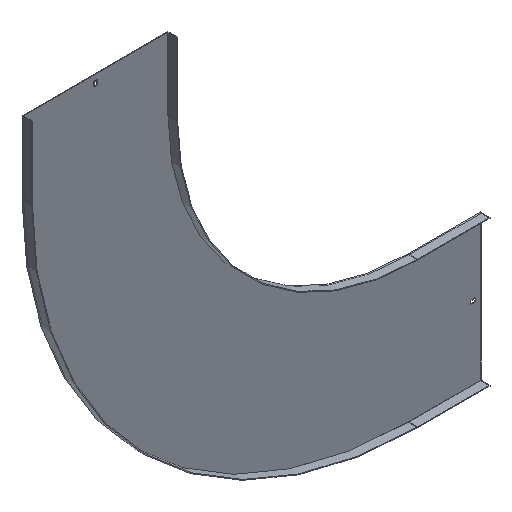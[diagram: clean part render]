
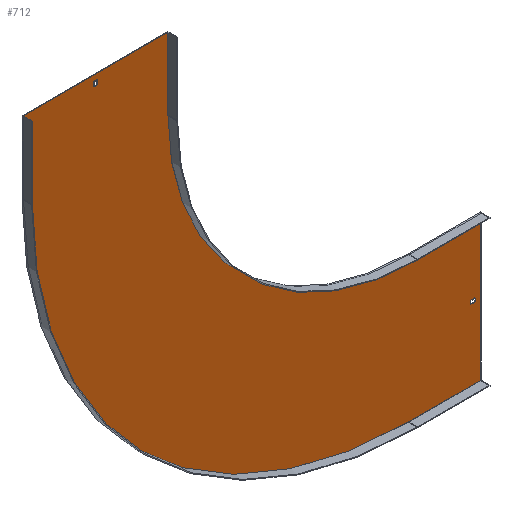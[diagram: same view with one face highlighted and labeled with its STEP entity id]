
A CAD part, isometric view. The second image highlights one B-rep face of the part: STEP entity #712.
In plain terms, the highlighted planar face has unit normal (0, -1, 0).
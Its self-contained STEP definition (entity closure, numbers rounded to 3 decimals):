
#18 = DIRECTION ( 'NONE',  ( 0., 0., -1. ) ) ;
#26 = DIRECTION ( 'NONE',  ( 0., 0., -1. ) ) ;
#27 = ORIENTED_EDGE ( 'NONE', *, *, #55, .T. ) ;
#32 = VERTEX_POINT ( 'NONE', #49 ) ;
#42 = CARTESIAN_POINT ( 'NONE',  ( -646.75, -1.5, 138. ) ) ;
#49 = CARTESIAN_POINT ( 'NONE',  ( -500., -1.5, 150. ) ) ;
#51 = VECTOR ( 'NONE', #26, 1000. ) ;
#55 = EDGE_CURVE ( 'NONE', #222, #390, #96, .T. ) ;
#67 = DIRECTION ( 'NONE',  ( 0., -1., 0. ) ) ;
#68 = DIRECTION ( 'NONE',  ( 1., 0., 0. ) ) ;
#72 = AXIS2_PLACEMENT_3D ( 'NONE', #525, #67, #726 ) ;
#83 = ORIENTED_EDGE ( 'NONE', *, *, #433, .F. ) ;
#90 = VECTOR ( 'NONE', #543, 1000. ) ;
#93 = CARTESIAN_POINT ( 'NONE',  ( -646.75, -1.5, 129. ) ) ;
#96 = LINE ( 'NONE', #336, #51 ) ;
#101 = CARTESIAN_POINT ( 'NONE',  ( 150., -1.5, -498.5 ) ) ;
#109 = VECTOR ( 'NONE', #412, 1000. ) ;
#115 = EDGE_CURVE ( 'NONE', #777, #827, #808, .T. ) ;
#116 = CARTESIAN_POINT ( 'NONE',  ( -801.5, -1.5, 150. ) ) ;
#117 = VERTEX_POINT ( 'NONE', #760 ) ;
#122 = FACE_OUTER_BOUND ( 'NONE', #545, .T. ) ;
#132 = AXIS2_PLACEMENT_3D ( 'NONE', #295, #490, #18 ) ;
#134 = VERTEX_POINT ( 'NONE', #413 ) ;
#137 = VERTEX_POINT ( 'NONE', #842 ) ;
#152 = LINE ( 'NONE', #474, #210 ) ;
#158 = EDGE_LOOP ( 'NONE', ( #467, #189, #83, #616 ) ) ;
#164 = ORIENTED_EDGE ( 'NONE', *, *, #551, .F. ) ;
#174 = DIRECTION ( 'NONE',  ( 0., -1., 0. ) ) ;
#178 = ORIENTED_EDGE ( 'NONE', *, *, #341, .T. ) ;
#180 = CARTESIAN_POINT ( 'NONE',  ( 0., -1.5, -500. ) ) ;
#189 = ORIENTED_EDGE ( 'NONE', *, *, #574, .F. ) ;
#192 = EDGE_CURVE ( 'NONE', #799, #134, #709, .T. ) ;
#210 = VECTOR ( 'NONE', #614, 1000. ) ;
#212 = FACE_BOUND ( 'NONE', #546, .T. ) ;
#214 = VERTEX_POINT ( 'NONE', #261 ) ;
#216 = CARTESIAN_POINT ( 'NONE',  ( 150., -1.5, -500. ) ) ;
#220 = EDGE_CURVE ( 'NONE', #548, #32, #444, .T. ) ;
#221 = DIRECTION ( 'NONE',  ( 0., 0., -1. ) ) ;
#222 = VERTEX_POINT ( 'NONE', #42 ) ;
#225 = CIRCLE ( 'NONE', #132, 800. ) ;
#240 = CARTESIAN_POINT ( 'NONE',  ( 0., -1.5, -800. ) ) ;
#243 = CARTESIAN_POINT ( 'NONE',  ( 138., -1.5, -646.75 ) ) ;
#247 = EDGE_CURVE ( 'NONE', #710, #777, #311, .T. ) ;
#254 = VERTEX_POINT ( 'NONE', #636 ) ;
#257 = CARTESIAN_POINT ( 'NONE',  ( 0., -1.5, -500. ) ) ;
#261 = CARTESIAN_POINT ( 'NONE',  ( -800., -1.5, 0. ) ) ;
#279 = ORIENTED_EDGE ( 'NONE', *, *, #443, .F. ) ;
#284 = ORIENTED_EDGE ( 'NONE', *, *, #247, .F. ) ;
#290 = LINE ( 'NONE', #823, #109 ) ;
#294 = VERTEX_POINT ( 'NONE', #829 ) ;
#295 = CARTESIAN_POINT ( 'NONE',  ( 0., -1.5, 0. ) ) ;
#300 = EDGE_CURVE ( 'NONE', #410, #117, #695, .T. ) ;
#301 = LINE ( 'NONE', #469, #735 ) ;
#311 = LINE ( 'NONE', #180, #565 ) ;
#322 = LINE ( 'NONE', #327, #464 ) ;
#327 = CARTESIAN_POINT ( 'NONE',  ( -800., -1.5, 0. ) ) ;
#336 = CARTESIAN_POINT ( 'NONE',  ( -646.75, -1.5, 0. ) ) ;
#341 = EDGE_CURVE ( 'NONE', #117, #222, #152, .T. ) ;
#346 = ORIENTED_EDGE ( 'NONE', *, *, #220, .F. ) ;
#373 = DIRECTION ( 'NONE',  ( 1., 0., 0. ) ) ;
#390 = VERTEX_POINT ( 'NONE', #93 ) ;
#392 = EDGE_CURVE ( 'NONE', #134, #294, #290, .T. ) ;
#393 = VECTOR ( 'NONE', #373, 1000. ) ;
#398 = DIRECTION ( 'NONE',  ( 0., 0., 1. ) ) ;
#402 = DIRECTION ( 'NONE',  ( -1., 0., 0. ) ) ;
#405 = CIRCLE ( 'NONE', #579, 500. ) ;
#410 = VERTEX_POINT ( 'NONE', #491 ) ;
#412 = DIRECTION ( 'NONE',  ( 0., 0., -1. ) ) ;
#413 = CARTESIAN_POINT ( 'NONE',  ( 129., -1.5, -646.75 ) ) ;
#422 = CARTESIAN_POINT ( 'NONE',  ( 150., -1.5, -800. ) ) ;
#433 = EDGE_CURVE ( 'NONE', #294, #137, #301, .T. ) ;
#435 = CARTESIAN_POINT ( 'NONE',  ( 150., -1.5, -800. ) ) ;
#443 = EDGE_CURVE ( 'NONE', #214, #548, #322, .T. ) ;
#444 = LINE ( 'NONE', #116, #393 ) ;
#456 = EDGE_CURVE ( 'NONE', #390, #410, #532, .T. ) ;
#464 = VECTOR ( 'NONE', #398, 1000. ) ;
#467 = ORIENTED_EDGE ( 'NONE', *, *, #192, .F. ) ;
#469 = CARTESIAN_POINT ( 'NONE',  ( 0., -1.5, -653.25 ) ) ;
#474 = CARTESIAN_POINT ( 'NONE',  ( 0., -1.5, 138. ) ) ;
#483 = LINE ( 'NONE', #745, #661 ) ;
#490 = DIRECTION ( 'NONE',  ( 0., 1., 0. ) ) ;
#491 = CARTESIAN_POINT ( 'NONE',  ( -653.25, -1.5, 129. ) ) ;
#504 = EDGE_CURVE ( 'NONE', #809, #214, #225, .T. ) ;
#510 = ORIENTED_EDGE ( 'NONE', *, *, #115, .F. ) ;
#512 = DIRECTION ( 'NONE',  ( 1., 0., 0. ) ) ;
#517 = FACE_BOUND ( 'NONE', #158, .T. ) ;
#520 = VECTOR ( 'NONE', #402, 1000. ) ;
#525 = CARTESIAN_POINT ( 'NONE',  ( 0., -1.5, 0. ) ) ;
#531 = VECTOR ( 'NONE', #716, 1000. ) ;
#532 = LINE ( 'NONE', #670, #520 ) ;
#533 = EDGE_CURVE ( 'NONE', #827, #809, #746, .T. ) ;
#539 = DIRECTION ( 'NONE',  ( 0., 0., -1. ) ) ;
#540 = ORIENTED_EDGE ( 'NONE', *, *, #300, .T. ) ;
#541 = LINE ( 'NONE', #806, #651 ) ;
#543 = DIRECTION ( 'NONE',  ( 0., 0., 1. ) ) ;
#545 = EDGE_LOOP ( 'NONE', ( #346, #279, #650, #608, #510, #284, #164, #832 ) ) ;
#546 = EDGE_LOOP ( 'NONE', ( #178, #27, #785, #540 ) ) ;
#548 = VERTEX_POINT ( 'NONE', #629 ) ;
#551 = EDGE_CURVE ( 'NONE', #254, #710, #405, .T. ) ;
#565 = VECTOR ( 'NONE', #512, 1000. ) ;
#574 = EDGE_CURVE ( 'NONE', #137, #799, #541, .T. ) ;
#579 = AXIS2_PLACEMENT_3D ( 'NONE', #764, #174, #699 ) ;
#599 = VECTOR ( 'NONE', #221, 1000. ) ;
#608 = ORIENTED_EDGE ( 'NONE', *, *, #533, .F. ) ;
#614 = DIRECTION ( 'NONE',  ( 1., 0., 0. ) ) ;
#616 = ORIENTED_EDGE ( 'NONE', *, *, #392, .F. ) ;
#621 = VECTOR ( 'NONE', #754, 1000. ) ;
#629 = CARTESIAN_POINT ( 'NONE',  ( -800., -1.5, 150. ) ) ;
#636 = CARTESIAN_POINT ( 'NONE',  ( -500., -1.5, 0. ) ) ;
#650 = ORIENTED_EDGE ( 'NONE', *, *, #504, .F. ) ;
#651 = VECTOR ( 'NONE', #653, 1000. ) ;
#653 = DIRECTION ( 'NONE',  ( 0., 0., 1. ) ) ;
#661 = VECTOR ( 'NONE', #539, 1000. ) ;
#670 = CARTESIAN_POINT ( 'NONE',  ( 0., -1.5, 129. ) ) ;
#695 = LINE ( 'NONE', #736, #90 ) ;
#697 = EDGE_CURVE ( 'NONE', #32, #254, #483, .T. ) ;
#699 = DIRECTION ( 'NONE',  ( 0., 0., -1. ) ) ;
#709 = LINE ( 'NONE', #836, #531 ) ;
#710 = VERTEX_POINT ( 'NONE', #257 ) ;
#712 = ADVANCED_FACE ( 'NONE', ( #517, #122, #212 ), #862, .T. ) ;
#716 = DIRECTION ( 'NONE',  ( -1., 0., 0. ) ) ;
#726 = DIRECTION ( 'NONE',  ( 0., 0., -1. ) ) ;
#735 = VECTOR ( 'NONE', #68, 1000. ) ;
#736 = CARTESIAN_POINT ( 'NONE',  ( -653.25, -1.5, 0. ) ) ;
#745 = CARTESIAN_POINT ( 'NONE',  ( -500., -1.5, 150. ) ) ;
#746 = LINE ( 'NONE', #435, #621 ) ;
#754 = DIRECTION ( 'NONE',  ( -1., 0., 0. ) ) ;
#760 = CARTESIAN_POINT ( 'NONE',  ( -653.25, -1.5, 138. ) ) ;
#764 = CARTESIAN_POINT ( 'NONE',  ( 0., -1.5, 0. ) ) ;
#777 = VERTEX_POINT ( 'NONE', #216 ) ;
#785 = ORIENTED_EDGE ( 'NONE', *, *, #456, .T. ) ;
#799 = VERTEX_POINT ( 'NONE', #243 ) ;
#806 = CARTESIAN_POINT ( 'NONE',  ( 138., -1.5, 0. ) ) ;
#808 = LINE ( 'NONE', #101, #599 ) ;
#809 = VERTEX_POINT ( 'NONE', #240 ) ;
#823 = CARTESIAN_POINT ( 'NONE',  ( 129., -1.5, 0. ) ) ;
#827 = VERTEX_POINT ( 'NONE', #422 ) ;
#829 = CARTESIAN_POINT ( 'NONE',  ( 129., -1.5, -653.25 ) ) ;
#832 = ORIENTED_EDGE ( 'NONE', *, *, #697, .F. ) ;
#836 = CARTESIAN_POINT ( 'NONE',  ( 0., -1.5, -646.75 ) ) ;
#842 = CARTESIAN_POINT ( 'NONE',  ( 138., -1.5, -653.25 ) ) ;
#862 = PLANE ( 'NONE',  #72 ) ;
